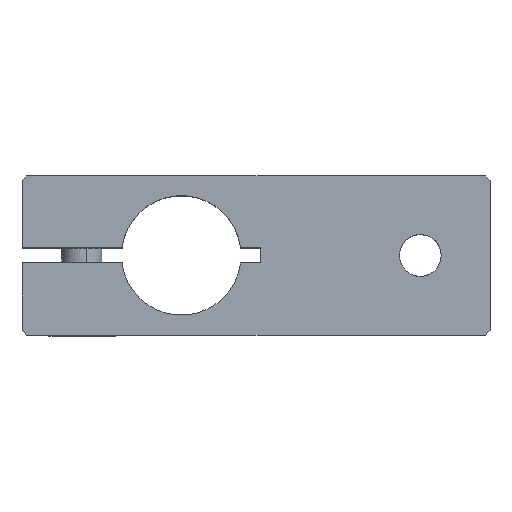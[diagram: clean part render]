
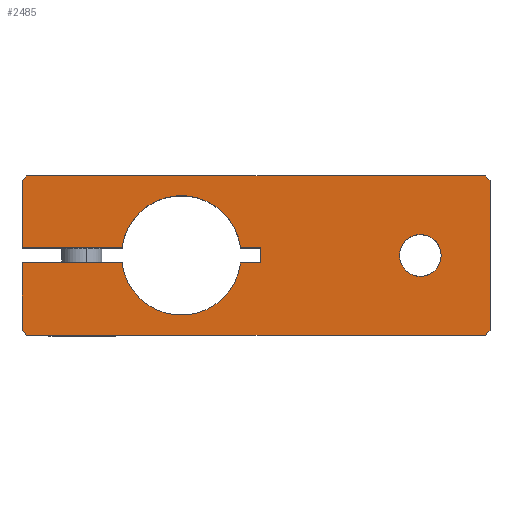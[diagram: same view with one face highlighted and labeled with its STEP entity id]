
A CAD part, top view. The second image highlights one B-rep face of the part: STEP entity #2485.
In plain terms, the highlighted planar face has unit normal (0, 0, 1).
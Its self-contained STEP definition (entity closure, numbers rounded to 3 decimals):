
#171 = CARTESIAN_POINT ( 'NONE',  ( 20.992, 15.65, 5. ) ) ;
#308 = LINE ( 'NONE', #1069, #4078 ) ;
#342 = LINE ( 'NONE', #5701, #11094 ) ;
#460 = CARTESIAN_POINT ( 'NONE',  ( 13.992, 8.15, 5. ) ) ;
#523 = AXIS2_PLACEMENT_3D ( 'NONE', #5466, #10013, #8260 ) ;
#527 = VERTEX_POINT ( 'NONE', #11056 ) ;
#565 = CIRCLE ( 'NONE', #10160, 6. ) ;
#703 = DIRECTION ( 'NONE',  ( -1., 0., 0. ) ) ;
#782 = DIRECTION ( 'NONE',  ( -1., 0., 0. ) ) ;
#861 = CARTESIAN_POINT ( 'NONE',  ( -20.984, 7.4, 5. ) ) ;
#904 = CARTESIAN_POINT ( 'NONE',  ( 20.492, 16.15, 5. ) ) ;
#963 = ORIENTED_EDGE ( 'NONE', *, *, #4088, .F. ) ;
#1031 = VERTEX_POINT ( 'NONE', #5480 ) ;
#1069 = CARTESIAN_POINT ( 'NONE',  ( -26.008, 4.025, 5. ) ) ;
#1125 = ORIENTED_EDGE ( 'NONE', *, *, #4786, .T. ) ;
#1264 = CARTESIAN_POINT ( 'NONE',  ( -15.96, 7.4, 5. ) ) ;
#1285 = DIRECTION ( 'NONE',  ( -0.707, -0.707, 0. ) ) ;
#1391 = DIRECTION ( 'NONE',  ( 1., 0., 0. ) ) ;
#1441 = ORIENTED_EDGE ( 'NONE', *, *, #7856, .T. ) ;
#1453 = PLANE ( 'NONE',  #6808 ) ;
#1494 = CIRCLE ( 'NONE', #5283, 2.1 ) ;
#1576 = ORIENTED_EDGE ( 'NONE', *, *, #11867, .T. ) ;
#1613 = LINE ( 'NONE', #7148, #11890 ) ;
#1671 = CARTESIAN_POINT ( 'NONE',  ( 20.492, 0.15, 5. ) ) ;
#1689 = CIRCLE ( 'NONE', #523, 6. ) ;
#1699 = EDGE_CURVE ( 'NONE', #5524, #6662, #5552, .T. ) ;
#1709 = DIRECTION ( 'NONE',  ( 0., -1., 0. ) ) ;
#1774 = DIRECTION ( 'NONE',  ( 0., 1., 0. ) ) ;
#1837 = CARTESIAN_POINT ( 'NONE',  ( -4.055, 7.4, 5. ) ) ;
#1908 = VECTOR ( 'NONE', #1709, 1000. ) ;
#1990 = VERTEX_POINT ( 'NONE', #171 ) ;
#2044 = CARTESIAN_POINT ( 'NONE',  ( -2.008, 7.4, 5. ) ) ;
#2052 = AXIS2_PLACEMENT_3D ( 'NONE', #460, #6942, #1391 ) ;
#2134 = CARTESIAN_POINT ( 'NONE',  ( 20.992, 15.65, 5. ) ) ;
#2159 = EDGE_LOOP ( 'NONE', ( #6674, #8790, #9050, #7759, #6051, #1125, #11305, #7543, #5358, #9115, #7930, #1576, #2745, #11852, #1441, #2895 ) ) ;
#2242 = LINE ( 'NONE', #8963, #5725 ) ;
#2313 = VECTOR ( 'NONE', #1774, 1000. ) ;
#2322 = EDGE_LOOP ( 'NONE', ( #2782, #963 ) ) ;
#2409 = DIRECTION ( 'NONE',  ( 1., 0., 0. ) ) ;
#2485 = ADVANCED_FACE ( 'NONE', ( #9718, #8993 ), #1453, .T. ) ;
#2526 = CARTESIAN_POINT ( 'NONE',  ( -26.008, 12.275, 5. ) ) ;
#2559 = EDGE_CURVE ( 'NONE', #11171, #9267, #565, .T. ) ;
#2575 = DIRECTION ( 'NONE',  ( 0.707, -0.707, 0. ) ) ;
#2600 = DIRECTION ( 'NONE',  ( -1., 0., 0. ) ) ;
#2745 = ORIENTED_EDGE ( 'NONE', *, *, #3219, .F. ) ;
#2782 = ORIENTED_EDGE ( 'NONE', *, *, #1699, .F. ) ;
#2789 = VECTOR ( 'NONE', #9478, 1000. ) ;
#2895 = ORIENTED_EDGE ( 'NONE', *, *, #3001, .T. ) ;
#3001 = EDGE_CURVE ( 'NONE', #10454, #9267, #7217, .T. ) ;
#3219 = EDGE_CURVE ( 'NONE', #527, #7336, #1689, .T. ) ;
#3286 = VERTEX_POINT ( 'NONE', #904 ) ;
#3385 = VECTOR ( 'NONE', #7770, 1000. ) ;
#3407 = VECTOR ( 'NONE', #7630, 1000. ) ;
#3667 = VECTOR ( 'NONE', #782, 1000. ) ;
#3683 = CARTESIAN_POINT ( 'NONE',  ( 20.992, 8.15, 5. ) ) ;
#4078 = VECTOR ( 'NONE', #8504, 1000. ) ;
#4088 = EDGE_CURVE ( 'NONE', #6662, #5524, #1494, .T. ) ;
#4304 = DIRECTION ( 'NONE',  ( 0.707, 0.707, 0. ) ) ;
#4504 = VECTOR ( 'NONE', #4304, 1000. ) ;
#4759 = CARTESIAN_POINT ( 'NONE',  ( 20.492, 0.15, 5. ) ) ;
#4786 = EDGE_CURVE ( 'NONE', #7658, #10293, #5374, .T. ) ;
#4833 = EDGE_CURVE ( 'NONE', #4997, #1031, #1613, .T. ) ;
#4871 = CARTESIAN_POINT ( 'NONE',  ( -2.008, 8.15, 5. ) ) ;
#4940 = LINE ( 'NONE', #11497, #10330 ) ;
#4984 = EDGE_CURVE ( 'NONE', #1990, #10293, #5963, .T. ) ;
#4997 = VERTEX_POINT ( 'NONE', #10996 ) ;
#5283 = AXIS2_PLACEMENT_3D ( 'NONE', #7262, #6344, #10145 ) ;
#5358 = ORIENTED_EDGE ( 'NONE', *, *, #10681, .F. ) ;
#5374 = LINE ( 'NONE', #1671, #4504 ) ;
#5466 = CARTESIAN_POINT ( 'NONE',  ( -10.008, 8.15, 5. ) ) ;
#5480 = CARTESIAN_POINT ( 'NONE',  ( -25.508, 0.15, 5. ) ) ;
#5516 = EDGE_CURVE ( 'NONE', #7826, #6421, #7229, .T. ) ;
#5524 = VERTEX_POINT ( 'NONE', #11931 ) ;
#5552 = CIRCLE ( 'NONE', #2052, 2.1 ) ;
#5588 = CARTESIAN_POINT ( 'NONE',  ( -26.008, 8.9, 5. ) ) ;
#5701 = CARTESIAN_POINT ( 'NONE',  ( -3.031, 8.9, 5. ) ) ;
#5725 = VECTOR ( 'NONE', #2409, 1000. ) ;
#5906 = CARTESIAN_POINT ( 'NONE',  ( -26.008, 15.65, 5. ) ) ;
#5951 = CARTESIAN_POINT ( 'NONE',  ( -26.008, 0.15, 5. ) ) ;
#5963 = LINE ( 'NONE', #3683, #1908 ) ;
#6051 = ORIENTED_EDGE ( 'NONE', *, *, #11026, .F. ) ;
#6316 = CARTESIAN_POINT ( 'NONE',  ( -26.008, 7.4, 5. ) ) ;
#6344 = DIRECTION ( 'NONE',  ( 0., 0., 1. ) ) ;
#6421 = VERTEX_POINT ( 'NONE', #5906 ) ;
#6450 = VECTOR ( 'NONE', #11009, 1000. ) ;
#6662 = VERTEX_POINT ( 'NONE', #10046 ) ;
#6674 = ORIENTED_EDGE ( 'NONE', *, *, #2559, .F. ) ;
#6808 = AXIS2_PLACEMENT_3D ( 'NONE', #5951, #8707, #9644 ) ;
#6925 = CARTESIAN_POINT ( 'NONE',  ( -25.508, 16.15, 5. ) ) ;
#6942 = DIRECTION ( 'NONE',  ( 0., 0., 1. ) ) ;
#7148 = CARTESIAN_POINT ( 'NONE',  ( -26.008, 0.65, 5. ) ) ;
#7201 = CARTESIAN_POINT ( 'NONE',  ( -10.008, 8.15, 5. ) ) ;
#7205 = EDGE_CURVE ( 'NONE', #4997, #10193, #308, .T. ) ;
#7217 = LINE ( 'NONE', #8153, #7349 ) ;
#7229 = LINE ( 'NONE', #2526, #2313 ) ;
#7262 = CARTESIAN_POINT ( 'NONE',  ( 13.992, 8.15, 5. ) ) ;
#7336 = VERTEX_POINT ( 'NONE', #7904 ) ;
#7349 = VECTOR ( 'NONE', #703, 1000. ) ;
#7446 = LINE ( 'NONE', #11510, #3385 ) ;
#7476 = CARTESIAN_POINT ( 'NONE',  ( -2.008, 8.9, 5. ) ) ;
#7543 = ORIENTED_EDGE ( 'NONE', *, *, #8890, .T. ) ;
#7570 = EDGE_CURVE ( 'NONE', #11171, #10193, #11220, .T. ) ;
#7630 = DIRECTION ( 'NONE',  ( -0.707, 0.707, 0. ) ) ;
#7658 = VERTEX_POINT ( 'NONE', #4759 ) ;
#7700 = DIRECTION ( 'NONE',  ( 1., 0., 0. ) ) ;
#7759 = ORIENTED_EDGE ( 'NONE', *, *, #4833, .T. ) ;
#7770 = DIRECTION ( 'NONE',  ( -1., 0., 0. ) ) ;
#7826 = VERTEX_POINT ( 'NONE', #5588 ) ;
#7856 = EDGE_CURVE ( 'NONE', #8230, #10454, #9456, .T. ) ;
#7888 = EDGE_CURVE ( 'NONE', #11029, #6421, #4940, .T. ) ;
#7904 = CARTESIAN_POINT ( 'NONE',  ( -15.96, 8.9, 5. ) ) ;
#7930 = ORIENTED_EDGE ( 'NONE', *, *, #5516, .F. ) ;
#8153 = CARTESIAN_POINT ( 'NONE',  ( -3.031, 7.4, 5. ) ) ;
#8230 = VERTEX_POINT ( 'NONE', #7476 ) ;
#8260 = DIRECTION ( 'NONE',  ( -1., 0., 0. ) ) ;
#8504 = DIRECTION ( 'NONE',  ( 0., 1., 0. ) ) ;
#8707 = DIRECTION ( 'NONE',  ( 0., 0., 1. ) ) ;
#8790 = ORIENTED_EDGE ( 'NONE', *, *, #7570, .T. ) ;
#8890 = EDGE_CURVE ( 'NONE', #1990, #3286, #10817, .T. ) ;
#8963 = CARTESIAN_POINT ( 'NONE',  ( -2.508, 16.15, 5. ) ) ;
#8993 = FACE_OUTER_BOUND ( 'NONE', #2159, .T. ) ;
#9050 = ORIENTED_EDGE ( 'NONE', *, *, #7205, .F. ) ;
#9115 = ORIENTED_EDGE ( 'NONE', *, *, #7888, .T. ) ;
#9267 = VERTEX_POINT ( 'NONE', #1837 ) ;
#9456 = LINE ( 'NONE', #4871, #2789 ) ;
#9478 = DIRECTION ( 'NONE',  ( 0., -1., 0. ) ) ;
#9644 = DIRECTION ( 'NONE',  ( 1., 0., 0. ) ) ;
#9718 = FACE_BOUND ( 'NONE', #2322, .T. ) ;
#9926 = LINE ( 'NONE', #11879, #6450 ) ;
#10013 = DIRECTION ( 'NONE',  ( 0., 0., 1. ) ) ;
#10046 = CARTESIAN_POINT ( 'NONE',  ( 11.892, 8.15, 5. ) ) ;
#10145 = DIRECTION ( 'NONE',  ( 1., 0., 0. ) ) ;
#10150 = CARTESIAN_POINT ( 'NONE',  ( 20.992, 0.65, 5. ) ) ;
#10160 = AXIS2_PLACEMENT_3D ( 'NONE', #7201, #11773, #2600 ) ;
#10193 = VERTEX_POINT ( 'NONE', #6316 ) ;
#10293 = VERTEX_POINT ( 'NONE', #10150 ) ;
#10330 = VECTOR ( 'NONE', #1285, 1000. ) ;
#10454 = VERTEX_POINT ( 'NONE', #2044 ) ;
#10460 = EDGE_CURVE ( 'NONE', #527, #8230, #342, .T. ) ;
#10681 = EDGE_CURVE ( 'NONE', #11029, #3286, #2242, .T. ) ;
#10817 = LINE ( 'NONE', #2134, #3407 ) ;
#10996 = CARTESIAN_POINT ( 'NONE',  ( -26.008, 0.65, 5. ) ) ;
#11009 = DIRECTION ( 'NONE',  ( 1., 0., 0. ) ) ;
#11026 = EDGE_CURVE ( 'NONE', #7658, #1031, #7446, .T. ) ;
#11029 = VERTEX_POINT ( 'NONE', #6925 ) ;
#11056 = CARTESIAN_POINT ( 'NONE',  ( -4.055, 8.9, 5. ) ) ;
#11094 = VECTOR ( 'NONE', #7700, 1000. ) ;
#11171 = VERTEX_POINT ( 'NONE', #1264 ) ;
#11220 = LINE ( 'NONE', #861, #3667 ) ;
#11305 = ORIENTED_EDGE ( 'NONE', *, *, #4984, .F. ) ;
#11497 = CARTESIAN_POINT ( 'NONE',  ( -25.508, 16.15, 5. ) ) ;
#11510 = CARTESIAN_POINT ( 'NONE',  ( -2.508, 0.15, 5. ) ) ;
#11773 = DIRECTION ( 'NONE',  ( 0., 0., 1. ) ) ;
#11852 = ORIENTED_EDGE ( 'NONE', *, *, #10460, .T. ) ;
#11867 = EDGE_CURVE ( 'NONE', #7826, #7336, #9926, .T. ) ;
#11879 = CARTESIAN_POINT ( 'NONE',  ( -20.984, 8.9, 5. ) ) ;
#11890 = VECTOR ( 'NONE', #2575, 1000. ) ;
#11931 = CARTESIAN_POINT ( 'NONE',  ( 16.092, 8.15, 5. ) ) ;
